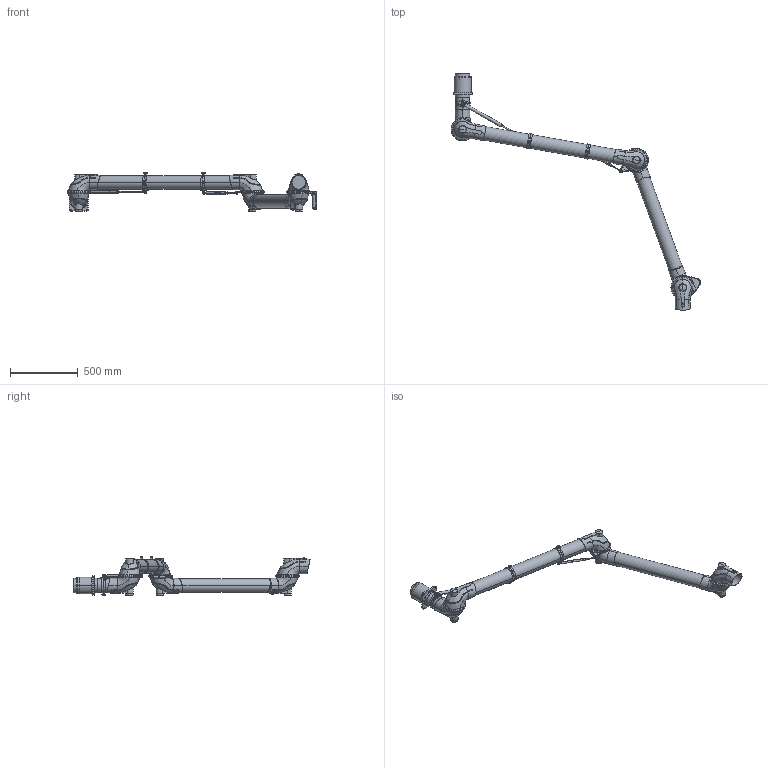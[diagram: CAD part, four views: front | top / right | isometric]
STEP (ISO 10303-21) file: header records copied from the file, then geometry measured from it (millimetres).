
FILE_DESCRIPTION((''),'2;1');
FILE_NAME('100334','2015-01-09T',('Tomas Bellgran'),(''),'PRO/ENGINEER BY PARAMETRIC TECHNOLOGY CORPORATION, 2013410','PRO/ENGINEER BY PARAMETRIC TECHNOLOGY CORPORATION, 2013410','');
FILE_SCHEMA(('AUTOMOTIVE_DESIGN { 1 0 10303 214 1 1 1 1 }'));
Length unit declared in the file: millimetre
Products named in the file (42): 100945; 100252; 100940; 100935; 100249; 100001; 100188; 100190; 9900420; 100328; 100004; 9900055; 100258; 100281; 100002; 100273; 100002_AF13; 100291; 100001_AF8; 105-5481; 101156; 105-5810; 102135; 102086; 100827; 101106; 100990; 100010; 100337; GAS_SPRING_BANBACH_CYLB; GAS_SPRING_BANBACH-TUBE_AF11; 100348; 9903861; LOCK_NUT_M8_DIN985; LOCK_NUT_M8_DIN985_PL; 100107; GAS_SPRING_BANBACH_ROD; GAS_SPRING_BANBACH_RODHEAD; 100348-REF; 102117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
Assembly tree (53 placements, depth 4):
  100334
    100328
      100945
      100252
      100940
      100935  x2
      100249
      100001
      100190
        100188
      9900420
    100258
      100001  x2
      100004
      100190  x2
        100188
      9900420
      9900055
    100273
      100281
      100002
    102086
      100002_AF13
      100291
      100001_AF8
      101156
        105-5481
      102135  x2
        105-5810
    100990
      100827
      101106
    100010
    100337
    100348
      GAS_SPRING_BANBACH_CYLB
      GAS_SPRING_BANBACH-TUBE_AF11
    9903861  x3
    100107  x2
      LOCK_NUT_M8_DIN985
      LOCK_NUT_M8_DIN985_PL
    100348-REF
      GAS_SPRING_BANBACH_ROD
      GAS_SPRING_BANBACH_RODHEAD
    102117
    102117-REF
    101156  x2
      105-5481
Bounding box: 1839.46 x 1741.91 x 294.37 mm (x, y, z)
Volume: 31069848 mm3; surface area: 2115358.9 mm2
Topology: 44 solids, 49 shells, 1785 faces, 4426 edges, 2747 vertices
Faces by surface type: plane 540, bspline 484, cylinder 373, cone 210, torus 118, sphere 43, extrusion 12, revolution 5
Entity records: 86863 total; most frequent: CARTESIAN_POINT 34540, ORIENTED_EDGE 6040, DIRECTION 5232, PRESENTATION_STYLE_ASSIGNMENT 3121, STYLED_ITEM 3121, EDGE_CURVE 3020, CURVE_STYLE 2233, AXIS2_PLACEMENT_3D 2098
